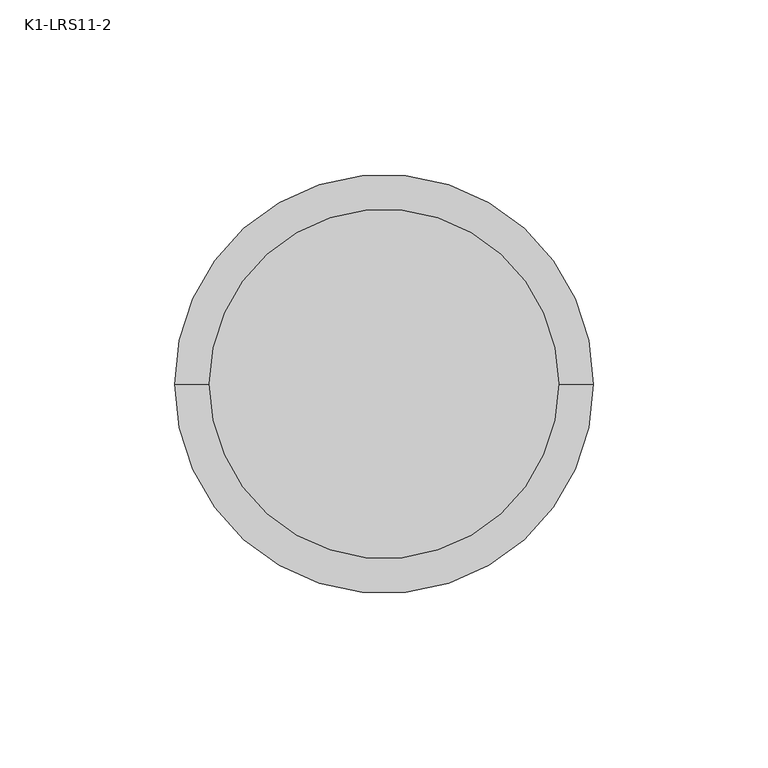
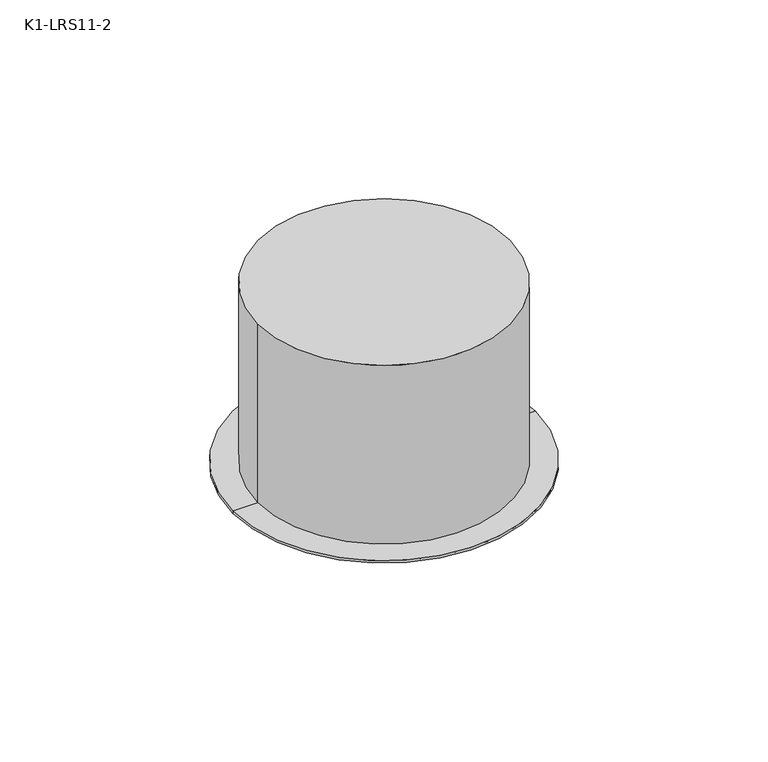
"""IFC4 building model written with IfcOpenShell, lengths in millimetres: light fixture geometry, 20501_K1-RS11_非常用照明器具_埋込天井灯_数値入力 : K1-LRS11-2."""

from ifc_helpers import new_model, si_unit, point, frame, origin, origin_with_axes, place, context, project, spatial, polyline, circle_curve, ellipse_curve, trimmed, source, transform, mapped, element, save
from ifc_brep_helpers import plane_surface, cylinder_surface, revolved_surface, advanced_brep


def k1_lrs11_2_c16883a2(model_context):
    return source(origin(), model_context, "Body", "AdvancedBrep", [
        advanced_brep(
        [(-15.0, 0.0, 5.0), (15.0, 0.0, 5.0), (15.0, 0.0, -5.0), (-15.0, 0.0, -5.0), (0.0, 0.0, 5.0), (0.0, 0.0, -8.0)],
        [
            (0, 1, circle_curve(frame((0.0, 0.0, 5.0), z_axis=(0.0, 0.0, -1.0), x_axis=(1.0, 0.0, 0.0)), 15.0)),
            (1, 2),
            (2, 3, circle_curve(frame((0.0, 0.0, -5.0), z_axis=(0.0, 0.0, 1.0), x_axis=(1.0, 0.0, 0.0)), 15.0)),
            (3, 0),
            (1, 0, circle_curve(frame((0.0, 0.0, 5.0), z_axis=(0.0, 0.0, -1.0), x_axis=(1.0, 0.0, 0.0)), 15.0)),
            (3, 2, circle_curve(frame((0.0, 0.0, -5.0), z_axis=(0.0, 0.0, 1.0), x_axis=(1.0, 0.0, 0.0)), 15.0)),
            (4, 1),
            (0, 4),
            (2, 5, circle_curve(frame((0.9955183, 0.0, 26.0224085), z_axis=(0.0, 1.0, 0.0), x_axis=(1.0, 0.0, 0.0)), 34.0369701)),
            (5, 3, circle_curve(frame((-0.9955183, 0.0, 26.0224085), z_axis=(0.0, 1.0, 0.0), x_axis=(-1.0, 0.0, 0.0)), 34.0369701)),
        ],
        [
            cylinder_surface(frame((0.0, 0.0, 11.6254251), z_axis=(0.0, 0.0, 1.0), x_axis=(1.0, 0.0, 0.0)), 15.0),
            plane_surface(frame((0.0, 0.0, 5.0), z_axis=(0.0, 0.0, 1.0), x_axis=(1.0, 0.0, 0.0))),
            revolved_surface(trimmed(ellipse_curve(frame((0.9955183, 0.0, 26.0224085), z_axis=(0.0, -1.0, 0.0), x_axis=(1.0, 0.0, 0.0)), 34.0369701, 34.0369701), [point((0.0, 0.0, -8.0))], [point((15.0, 0.0, -5.0))], True, "CARTESIAN"), (0.0, 0.0, 11.6254251), (0.0, 0.0, 1.0)),
        ],
        [
            (0, [[1, 2, 3, 4]]),
            (0, [[5, -4, 6, -2]]),
            (1, [[7, -1, 8]]),
            (1, [[-8, -5, -7]]),
            (2, [[-3, 9, 10]]),
            (2, [[-6, -10, -9]]),
        ],
    ),
        advanced_brep(
        [(-50.0, 0.0, 75.0), (50.0, 0.0, 75.0), (-50.0, 0.0, 0.0), (50.0, 0.0, 0.0), (-17.5, 0.0, 0.0), (17.5, 0.0, 0.0), (-17.5, 0.0, 5.0), (17.5, 0.0, 5.0)],
        [
            (0, 1, circle_curve(frame((0.0, 0.0, 75.0), z_axis=(0.0, 0.0, 1.0), x_axis=(1.0, 0.0, 0.0)), 50.0)),
            (1, 0, circle_curve(frame((0.0, 0.0, 75.0), z_axis=(0.0, 0.0, 1.0), x_axis=(1.0, 0.0, 0.0)), 50.0)),
            (2, 3, circle_curve(frame((0.0, 0.0, 0.0), z_axis=(0.0, 0.0, -1.0), x_axis=(1.0, 0.0, 0.0)), 50.0)),
            (3, 2, circle_curve(frame((0.0, 0.0, 0.0), z_axis=(0.0, 0.0, -1.0), x_axis=(1.0, 0.0, 0.0)), 50.0)),
            (4, 5, circle_curve(origin_with_axes(), 17.5)),
            (5, 4, circle_curve(origin_with_axes(), 17.5)),
            (6, 7, circle_curve(frame((0.0, 0.0, 5.0), z_axis=(0.0, 0.0, -1.0), x_axis=(1.0, 0.0, 0.0)), 17.5)),
            (7, 6, circle_curve(frame((0.0, 0.0, 5.0), z_axis=(0.0, 0.0, -1.0), x_axis=(1.0, 0.0, 0.0)), 17.5)),
            (7, 5),
            (4, 6),
            (0, 2),
            (3, 1),
        ],
        [
            plane_surface(frame((50.0, 0.0, 75.0), z_axis=(0.0, 0.0, 1.0), x_axis=(0.0, 1.0, 0.0))),
            plane_surface(frame((50.0, 0.0, 0.0), z_axis=(0.0, 0.0, -1.0), x_axis=(0.0, -1.0, 0.0))),
            plane_surface(frame((17.5, 0.0, 5.0), z_axis=(0.0, 0.0, -1.0), x_axis=(0.0, 1.0, 0.0))),
            revolved_surface(polyline([(17.5, 0.0, 5.0), (17.5, 0.0, 0.0)]), (0.0, 0.0, -10.0), (0.0, 0.0, 1.0)),
            cylinder_surface(origin_with_axes(), 50.0),
        ],
        [
            (0, [[1, 2]]),
            (1, [[3, 4], [5, 6]]),
            (2, [[7, 8]]),
            (3, [[-8, 9, -5, 10]]),
            (3, [[-7, -10, -6, -9]]),
            (4, [[-1, 11, -4, 12]]),
            (4, [[-2, -12, -3, -11]]),
        ],
    ),
        advanced_brep(
        [(-60.0, 0.0, 0.0), (60.0, 0.0, 0.0), (60.0, 0.0, -1.0), (-60.0, 0.0, -1.0), (-17.5, 0.0, 0.0), (17.5, 0.0, 0.0), (-17.5, 0.0, -4.0), (17.5, 0.0, -4.0), (-50.0, 0.0, -4.0), (50.0, 0.0, -4.0)],
        [
            (0, 1, circle_curve(frame((0.0, 0.0, 0.0), z_axis=(0.0, 0.0, -1.0), x_axis=(1.0, 0.0, 0.0)), 60.0)),
            (1, 2),
            (2, 3, circle_curve(frame((0.0, 0.0, -1.0), z_axis=(0.0, 0.0, 1.0), x_axis=(1.0, 0.0, 0.0)), 60.0)),
            (3, 0),
            (1, 0, circle_curve(frame((0.0, 0.0, 0.0), z_axis=(0.0, 0.0, -1.0), x_axis=(1.0, 0.0, 0.0)), 60.0)),
            (3, 2, circle_curve(frame((0.0, 0.0, -1.0), z_axis=(0.0, 0.0, 1.0), x_axis=(1.0, 0.0, 0.0)), 60.0)),
            (0, 4),
            (4, 5, circle_curve(frame((0.0, 0.0, 0.0), z_axis=(0.0, 0.0, -1.0), x_axis=(1.0, 0.0, 0.0)), 17.5)),
            (5, 1),
            (5, 4, circle_curve(frame((0.0, 0.0, 0.0), z_axis=(0.0, 0.0, -1.0), x_axis=(1.0, 0.0, 0.0)), 17.5)),
            (4, 6),
            (6, 7, circle_curve(frame((0.0, 0.0, -4.0), z_axis=(0.0, 0.0, -1.0), x_axis=(1.0, 0.0, 0.0)), 17.5)),
            (7, 5),
            (7, 6, circle_curve(frame((0.0, 0.0, -4.0), z_axis=(0.0, 0.0, -1.0), x_axis=(1.0, 0.0, 0.0)), 17.5)),
            (6, 8),
            (8, 9, circle_curve(frame((0.0, 0.0, -4.0), z_axis=(0.0, 0.0, -1.0), x_axis=(1.0, 0.0, 0.0)), 50.0)),
            (9, 7),
            (9, 8, circle_curve(frame((0.0, 0.0, -4.0), z_axis=(0.0, 0.0, -1.0), x_axis=(1.0, 0.0, 0.0)), 50.0)),
            (2, 9),
            (8, 3),
        ],
        [
            cylinder_surface(frame((0.0, 0.0, 20.0), z_axis=(0.0, 0.0, 1.0), x_axis=(1.0, 0.0, 0.0)), 60.0),
            plane_surface(origin_with_axes()),
            revolved_surface(polyline([(17.5, 0.0, 0.0), (17.5, 0.0, -4.0)]), (0.0, 0.0, 20.0), (0.0, 0.0, 1.0)),
            plane_surface(frame((0.0, 0.0, -4.0), z_axis=(0.0, 0.0, -1.0), x_axis=(1.0, 0.0, 0.0))),
            revolved_surface(polyline([(50.0, 0.0, -4.0), (60.0, 0.0, -1.0)]), (0.0, 0.0, 20.0), (0.0, 0.0, 1.0)),
        ],
        [
            (0, [[1, 2, 3, 4]]),
            (0, [[-2, 5, -4, 6]]),
            (1, [[-1, 7, 8, 9]]),
            (1, [[-5, -9, 10, -7]]),
            (2, [[-8, 11, 12, 13]]),
            (2, [[-10, -13, 14, -11]]),
            (3, [[-12, 15, 16, 17]]),
            (3, [[-14, -17, 18, -15]]),
            (4, [[-3, 19, -16, 20]]),
            (4, [[-6, -20, -18, -19]]),
        ],
    ),
    ])


if __name__ == "__main__":
    model = new_model("IFC4")
    model_context = context("Model", 3, world=origin())
    ifc_project = project(units=[si_unit("LENGTHUNIT", "METRE", prefix="MILLI")], contexts=[model_context])
    site = spatial("IfcSite", under=ifc_project)
    building = spatial("IfcBuilding", under=site)
    placement = place(None, origin())
    k1_lrs11_2_shape = k1_lrs11_2_c16883a2(model_context)
    element("IfcLightFixture", 1, ObjectType="20501_K1-RS11_非常用照明器具_埋込天井灯_数値入力 : K1-LRS11-2", at=placement, inside=building, context=model_context, shape_type="MappedRepresentation", body=[
        mapped(k1_lrs11_2_shape, transform((0.0, 0.0, 0.0), x_axis=(1.0, 0.0, 0.0), y_axis=(0.0, 1.0, 0.0), z_axis=(0.0, 0.0, 1.0))),
    ])
    save(model, "model.ifc")
